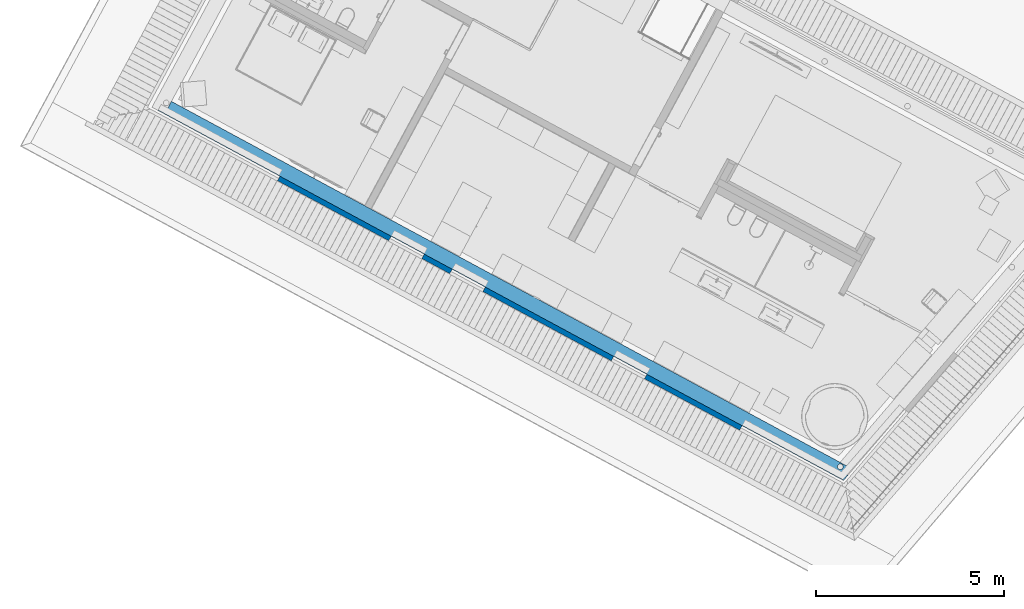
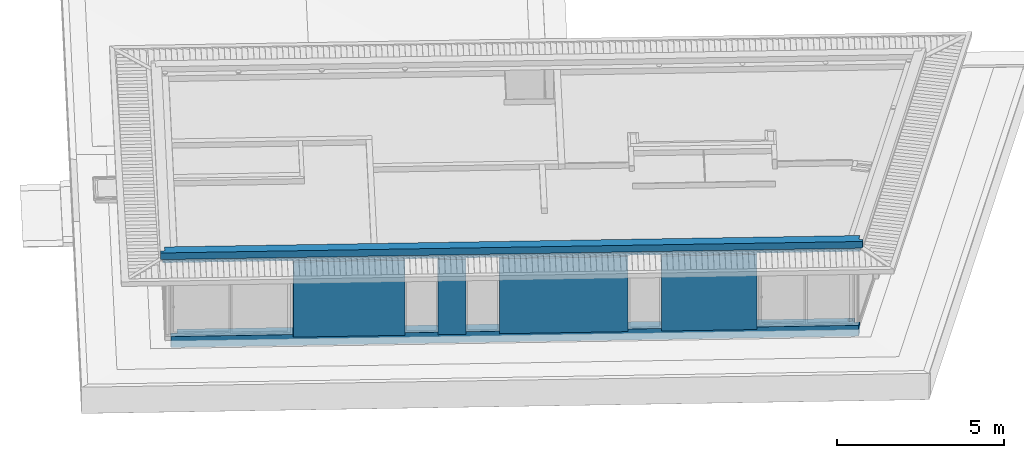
# One storey, part 6 of 48: 2 walls, 5 openings.
"""IFC2X3 building model written with IfcOpenShell, lengths in metres."""

from ifc_helpers import new_model, entity, si_unit, converted_unit, derived_unit, money_unit, direction, frame, origin_with_axes, origin_2d_with_axis, place, context, subcontext, project, spatial, rectangle, extrude, faceted_brep, material, material_list, type_object, element, save


model = new_model("IFC2X3")

# Units and contexts
model_context = context("Model", 3, precision=1e-05, world=origin_with_axes(), true_north=direction((0.0, 1.0)))
body_context = subcontext(model_context, "Body", "Model", "MODEL_VIEW")
ifc_project = project(units=[si_unit("LENGTHUNIT", "METRE"), si_unit("AREAUNIT", "SQUARE_METRE"), si_unit("VOLUMEUNIT", "CUBIC_METRE"), converted_unit("PLANEANGLEUNIT", "DEGREE", entity("IfcPlaneAngleMeasure", 0.0174532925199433), si_unit("PLANEANGLEUNIT", "RADIAN"), dimensions=[0, 0, 0, 0, 0, 0, 0]), money_unit("EUR"), converted_unit("TIMEUNIT", "Year", entity("IfcTimeMeasure", 31556926.0), si_unit("TIMEUNIT", "SECOND"), dimensions=[0, 0, 1, 0, 0, 0, 0]), si_unit("MASSUNIT", "GRAM", prefix="KILO"), si_unit("THERMODYNAMICTEMPERATUREUNIT", "DEGREE_CELSIUS"), si_unit("LUMINOUSINTENSITYUNIT", "LUMEN"), si_unit("ENERGYUNIT", "JOULE", prefix="MEGA"), derived_unit("THERMALCONDUCTANCEUNIT", [(si_unit("POWERUNIT", "WATT"), 1), (si_unit("LENGTHUNIT", "METRE"), -1), (si_unit("THERMODYNAMICTEMPERATUREUNIT", "KELVIN"), -1)]), derived_unit("SPECIFICHEATCAPACITYUNIT", [(si_unit("ENERGYUNIT", "JOULE"), 1), (si_unit("MASSUNIT", "GRAM", prefix="KILO"), -1), (si_unit("THERMODYNAMICTEMPERATUREUNIT", "KELVIN"), -1)]), derived_unit("MASSDENSITYUNIT", [(si_unit("MASSUNIT", "GRAM", prefix="KILO"), 1), (si_unit("VOLUMEUNIT", "CUBIC_METRE"), -1)])], contexts=[model_context])

# Site, building, storey
site_placement = place(None, frame((-3.949935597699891, 1.740105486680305, 0.0), z_axis=(0.0, 0.0, 1.0), x_axis=(0.8799804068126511, -0.475009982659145, 0.0)))
site = spatial("IfcSite", under=ifc_project, at=site_placement, Name="Gelände", CompositionType="ELEMENT")
building_placement = place(site_placement, origin_with_axes())
building = spatial("IfcBuilding", under=site, at=building_placement, Name="Gebäude", CompositionType="ELEMENT")
storey_placement = place(building_placement, frame((0.0, 0.0, 4.55), z_axis=(0.0, 0.0, 1.0), x_axis=(1.0, 0.0, 0.0)))
storey = spatial("IfcBuildingStorey", under=building, at=storey_placement, Name="Staffelgeschoss", CompositionType="ELEMENT", Elevation=4.55)

# Wall, openings
ifc_material_1 = material(Name="_SIWH - Beton, Stahlbeton")
ifc_material_2 = material(Name="_SIWH - Dämmung, weich Mineralwolle")
ifc_material_3 = material(Name="_SIWH - Luftschicht vertikal")
ifc_material_4 = material(Name="_SIWH - MW Vormauerziegel")
ifc_material_list_1 = material_list([ifc_material_1, ifc_material_2, ifc_material_3, ifc_material_4])
wall_type_1 = type_object("IfcWallType", Name="_SIWH - WA | Stb. 20+WD 18+LS 2+Verblender 11,5 | 51,5cm 515", PredefinedType="NOTDEFINED")
wall_1_placement = place(storey_placement, frame((5.397480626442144, 1.424987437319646, -2.47253595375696e-09), z_axis=(0.0, 0.0, 1.0), x_axis=(1.0, 0.0, 0.0)))
wall_1 = element("IfcWall", 1, at=wall_1_placement, inside=storey, type_object=wall_type_1, material=ifc_material_list_1, Name="A-Wand046", context=body_context, shape_type="Brep", body=[
    faceted_brep([(3.675000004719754, 0.2000000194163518, 2.750000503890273), (0.2000000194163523, 0.2000000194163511, 2.750000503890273), (0.1249999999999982, 0.2, 2.749999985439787), (0.0, 0.2, 2.749999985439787), (0.0, 0.2, 2.964000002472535), (20.56232839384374, 0.1999995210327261, 2.964000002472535), (20.5623282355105, 0.1999995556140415, 2.749999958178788), (20.43437954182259, 0.200000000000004, 2.749999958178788), (20.35761153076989, 0.2000000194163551, 2.749999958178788), (17.60735999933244, 0.2000000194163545, 2.749999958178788), (17.60735999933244, 0.2000000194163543, 0.0), (14.73738018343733, 0.2000000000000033, 0.0), (14.73738018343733, 0.2000000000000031, 2.75), (13.73738018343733, 0.2000000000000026, 2.75), (13.73738018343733, 0.2000000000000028, 0.0), (9.867511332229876, 0.2000000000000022, 0.0), (9.867511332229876, 0.2000000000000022, 2.75), (8.867511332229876, 0.2000000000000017, 2.75), (8.867511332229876, 0.2000000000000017, 0.0), (8.02672319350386, 0.2000000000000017, 0.0), (8.02672319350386, 0.2000000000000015, 2.75), (7.026723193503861, 0.2000000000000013, 2.75), (7.026723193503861, 0.2000000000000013, 0.0), (3.675000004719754, 0.2000000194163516, 0.0), (3.675000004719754, 0.0, 2.750000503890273), (0.0, 0.0, 2.750000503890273), (0.04692176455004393, 0.04692176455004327, 2.750000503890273), (0.05532834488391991, 0.03851518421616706, 2.750000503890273), (0.07651473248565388, 0.0277201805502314, 2.750000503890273), (0.1000000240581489, 0.02400047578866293, 2.750000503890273), (0.1234853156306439, 0.0277201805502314, 2.750000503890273), (0.1446717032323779, 0.03851518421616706, 2.750000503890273), (0.1614853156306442, 0.05532879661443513, 2.750000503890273), (0.1722803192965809, 0.07651518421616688, 2.750000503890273), (0.1760000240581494, 0.100000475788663, 2.750000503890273), (0.1722803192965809, 0.1234857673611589, 2.750000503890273), (0.1614853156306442, 0.1446721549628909, 2.750000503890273), (0.1446717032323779, 0.1614857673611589, 2.749999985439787), (0.1249999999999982, 0.1715090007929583, 2.749999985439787), (0.1234853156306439, 0.1722807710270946, 2.749999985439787), (0.1000000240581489, 0.1760004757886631, 2.749999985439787), (0.07651473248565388, 0.1722807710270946, 2.749999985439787), (0.05532834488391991, 0.1614857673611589, 2.749999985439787), (0.03851473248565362, 0.1446721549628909, 2.749999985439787), (0.02771972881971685, 0.1234857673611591, 2.749999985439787), (0.02400002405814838, 0.100000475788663, 2.749999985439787), (0.02771972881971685, 0.0765151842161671, 2.749999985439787), (0.03851473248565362, 0.05532879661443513, 2.749999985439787), (0.0, 0.0, 2.964000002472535), (20.51864681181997, 0.0, 2.964000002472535), (0.03851473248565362, 0.05532879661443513, 2.964000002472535), (0.02771972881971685, 0.0765151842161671, 2.964000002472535), (0.02400002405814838, 0.100000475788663, 2.964000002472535), (0.02771972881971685, 0.1234857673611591, 2.964000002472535), (0.03851473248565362, 0.1446721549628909, 2.964000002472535), (0.05532834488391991, 0.1614857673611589, 2.964000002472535), (0.07651473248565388, 0.1722807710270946, 2.964000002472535), (0.1000000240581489, 0.1760004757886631, 2.964000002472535), (0.1234853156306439, 0.1722807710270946, 2.964000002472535), (0.1446717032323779, 0.1614857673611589, 2.964000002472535), (0.1614853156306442, 0.1446721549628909, 2.964000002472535), (0.1722803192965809, 0.1234857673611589, 2.964000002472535), (0.1760000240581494, 0.100000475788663, 2.964000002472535), (0.1722803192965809, 0.07651518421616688, 2.964000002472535), (0.1614853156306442, 0.05532879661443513, 2.964000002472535), (0.1446717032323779, 0.03851518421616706, 2.964000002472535), (0.1234853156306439, 0.0277201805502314, 2.964000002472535), (0.1000000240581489, 0.02400047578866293, 2.964000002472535), (0.07651473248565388, 0.0277201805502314, 2.964000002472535), (0.05532834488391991, 0.03851518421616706, 2.964000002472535), (20.35617347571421, 0.05532879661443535, 2.964000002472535), (20.34537847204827, 0.07651518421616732, 2.964000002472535), (20.3416587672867, 0.1000004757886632, 2.964000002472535), (20.34537847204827, 0.1234857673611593, 2.964000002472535), (20.35617347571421, 0.1446721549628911, 2.964000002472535), (20.37298708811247, 0.1614857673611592, 2.964000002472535), (20.39417347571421, 0.1722807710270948, 2.964000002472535), (20.4176587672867, 0.1760004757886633, 2.964000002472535), (20.4411440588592, 0.1722807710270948, 2.964000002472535), (20.46233044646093, 0.1614857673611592, 2.964000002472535), (20.4791440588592, 0.1446721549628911, 2.964000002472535), (20.48993906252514, 0.1234857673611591, 2.964000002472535), (20.4936587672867, 0.1000004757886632, 2.964000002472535), (20.48993906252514, 0.0765151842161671, 2.964000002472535), (20.4791440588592, 0.05532879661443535, 2.964000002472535), (20.46233044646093, 0.03851518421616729, 2.964000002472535), (20.4411440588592, 0.02772018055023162, 2.964000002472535), (20.4176587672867, 0.02400047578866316, 2.964000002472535), (20.39417347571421, 0.02772018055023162, 2.964000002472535), (20.37298708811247, 0.03851518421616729, 2.964000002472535), (20.51864535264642, -1.041309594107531e-06, 2.749999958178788), (20.47634744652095, 0.05253218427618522, 2.749999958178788), (20.4791440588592, 0.05532879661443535, 2.749999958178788), (20.48993906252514, 0.0765151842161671, 2.749999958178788), (20.4936587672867, 0.1000004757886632, 2.749999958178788), (20.48993906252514, 0.1234857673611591, 2.749999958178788), (20.4791440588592, 0.1446721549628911, 2.749999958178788), (20.46233044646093, 0.1614857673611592, 2.749999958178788), (20.4411440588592, 0.1722807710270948, 2.749999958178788), (20.42875403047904, 0.1742431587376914, 2.749999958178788), (20.37298708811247, 0.1614857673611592, 2.749999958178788), (20.35617347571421, 0.1446721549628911, 2.749999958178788), (20.34537847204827, 0.1234857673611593, 2.749999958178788), (20.3416587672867, 0.1000004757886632, 2.749999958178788), (20.34537847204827, 0.07651518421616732, 2.749999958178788), (20.35617347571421, 0.05532879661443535, 2.749999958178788), (20.37298708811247, 0.03851518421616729, 2.749999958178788), (20.39417347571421, 0.02772018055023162, 2.749999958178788), (20.4176587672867, 0.02400047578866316, 2.749999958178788), (20.4411440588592, 0.02772018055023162, 2.749999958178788), (20.46233044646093, 0.03851518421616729, 2.749999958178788), (17.60735999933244, 0.0, 2.749999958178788), (20.4176587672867, 0.1760004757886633, 2.749999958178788), (20.39417347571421, 0.1722807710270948, 2.749999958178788), (17.60735999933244, 7.75635511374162e-09, 0.0), (14.73738018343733, 0.0, 0.0), (14.73738018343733, 0.0, 2.75), (13.73738018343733, 0.0, 2.75), (13.73738018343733, 0.0, 0.0), (9.867511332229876, 0.0, 0.0), (9.867511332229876, 0.0, 2.75), (8.867511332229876, 0.0, 2.75), (8.867511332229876, 0.0, 0.0), (8.02672319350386, 0.0, 0.0), (8.02672319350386, 0.0, 2.75), (7.026723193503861, 0.0, 2.75), (7.026723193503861, 0.0, 0.0), (3.675000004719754, 7.75635244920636e-09, 0.0)], [[[0, 1, 2, 3, 4, 5, 6, 7, 8, 9, 10, 11, 12, 13, 14, 15, 16, 17, 18, 19, 20, 21, 22, 23]], [[1, 0, 24, 25, 26, 27, 28, 29, 30, 31, 32, 33, 34, 35, 36, 37, 38, 2]], [[26, 25, 3, 2, 38, 39, 40, 41, 42, 43, 44, 45, 46, 47]], [[3, 25, 48, 4]], [[5, 4, 48, 49], [50, 51, 52, 53, 54, 55, 56, 57, 58, 59, 60, 61, 62, 63, 64, 65, 66, 67, 68, 69], [70, 71, 72, 73, 74, 75, 76, 77, 78, 79, 80, 81, 82, 83, 84, 85, 86, 87, 88, 89]], [[90, 6, 5, 49]], [[90, 91, 92, 93, 94, 95, 96, 97, 98, 99, 7, 6]], [[100, 101, 102, 103, 104, 105, 106, 107, 108, 109, 110, 91, 90, 111, 9, 8, 7, 99, 112, 113]], [[10, 9, 111, 114]], [[10, 114, 115, 11]], [[12, 11, 115, 116]], [[13, 12, 116, 117]], [[14, 13, 117, 118]], [[14, 118, 119, 15]], [[15, 119, 120, 16]], [[16, 120, 121, 17]], [[17, 121, 122, 18]], [[122, 123, 19, 18]], [[124, 20, 19, 123]], [[125, 21, 20, 124]], [[126, 22, 21, 125]], [[127, 23, 22, 126]], [[0, 23, 127, 24]], [[24, 127, 126, 125, 124, 123, 122, 121, 120, 119, 118, 117, 116, 115, 114, 111, 90, 49, 48, 25]], [[27, 26, 47, 50, 69]], [[28, 27, 69, 68]], [[29, 28, 68, 67]], [[30, 29, 67, 66]], [[31, 30, 66, 65]], [[32, 31, 65, 64]], [[33, 32, 64, 63]], [[34, 33, 63, 62]], [[35, 34, 62, 61]], [[36, 35, 61, 60]], [[36, 60, 59, 37]], [[38, 37, 59, 58, 39]], [[40, 39, 58, 57]], [[41, 40, 57, 56]], [[42, 41, 56, 55]], [[43, 42, 55, 54]], [[44, 43, 54, 53]], [[45, 44, 53, 52]], [[46, 45, 52, 51]], [[47, 46, 51, 50]], [[105, 104, 71, 70]], [[104, 103, 72, 71]], [[103, 102, 73, 72]], [[102, 101, 74, 73]], [[101, 100, 75, 74]], [[100, 113, 76, 75]], [[113, 112, 77, 76]], [[99, 98, 78, 77, 112]], [[98, 97, 79, 78]], [[97, 96, 80, 79]], [[96, 95, 81, 80]], [[95, 94, 82, 81]], [[94, 93, 83, 82]], [[93, 92, 84, 83]], [[91, 110, 85, 84, 92]], [[110, 109, 86, 85]], [[109, 108, 87, 86]], [[108, 107, 88, 87]], [[107, 106, 89, 88]], [[106, 105, 70, 89]]]),
    faceted_brep([(3.675000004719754, 0.0, 2.750000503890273), (-9.124601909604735e-07, -9.124601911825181e-07, 2.750000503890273), (-0.1799999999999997, 0.0, 2.749999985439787), (-0.1799999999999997, 0.0, 3.164000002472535), (20.70288770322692, 0.0, 3.164000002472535), (20.70288770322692, 0.0, 2.749999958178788), (20.51864451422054, 0.0, 2.749999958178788), (17.60735999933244, 0.0, 2.749999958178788), (17.60735999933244, 7.75635511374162e-09, 0.0), (14.73738018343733, 0.0, 0.0), (14.73738018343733, 0.0, 2.75), (13.73738018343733, 0.0, 2.75), (13.73738018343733, 0.0, 0.0), (9.867511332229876, 0.0, 0.0), (9.867511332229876, 0.0, 2.75), (8.867511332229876, 0.0, 2.75), (8.867511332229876, 0.0, 0.0), (8.02672319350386, 0.0, 0.0), (8.02672319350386, 0.0, 2.75), (7.026723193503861, 0.0, 2.75), (7.026723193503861, 0.0, 0.0), (3.675000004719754, 7.75635244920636e-09, 0.0), (3.675000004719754, -0.1799999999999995, 2.750000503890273), (-0.1799999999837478, -0.179999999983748, 2.750000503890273), (-0.1799999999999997, -0.1799999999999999, 3.164000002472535), (20.66357418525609, -0.1799999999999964, 3.164000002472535), (20.66357418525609, -0.1799999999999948, 2.749999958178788), (17.60735999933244, -0.1799999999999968, 2.749999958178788), (17.60735999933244, -0.1800000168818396, 0.0), (14.73738018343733, -0.1799999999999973, 0.0), (14.73738018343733, -0.1799999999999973, 2.75), (13.73738018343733, -0.1799999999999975, 2.75), (13.73738018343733, -0.1799999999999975, 0.0), (9.867511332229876, -0.1799999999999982, 0.0), (9.867511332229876, -0.1799999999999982, 2.75), (8.867511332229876, -0.1799999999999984, 2.75), (8.867511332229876, -0.1799999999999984, 0.0), (8.02672319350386, -0.1799999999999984, 0.0), (8.02672319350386, -0.1799999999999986, 2.75), (7.026723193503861, -0.1799999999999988, 2.75), (7.026723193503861, -0.1799999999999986, 0.0), (3.675000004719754, -0.1800000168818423, 0.0)], [[[0, 1, 2, 3, 4, 5, 6, 7, 8, 9, 10, 11, 12, 13, 14, 15, 16, 17, 18, 19, 20, 21]], [[1, 0, 22, 23]], [[1, 23, 2]], [[2, 23, 24, 3]], [[3, 24, 25, 4]], [[26, 5, 4, 25]], [[26, 6, 5]], [[6, 26, 27, 7]], [[8, 7, 27, 28]], [[8, 28, 29, 9]], [[10, 9, 29, 30]], [[11, 10, 30, 31]], [[12, 11, 31, 32]], [[12, 32, 33, 13]], [[13, 33, 34, 14]], [[14, 34, 35, 15]], [[15, 35, 36, 16]], [[36, 37, 17, 16]], [[38, 18, 17, 37]], [[39, 19, 18, 38]], [[40, 20, 19, 39]], [[41, 21, 20, 40]], [[0, 21, 41, 22]], [[22, 41, 40, 39, 38, 37, 36, 35, 34, 33, 32, 31, 30, 29, 28, 27, 26, 25, 24, 23]]]),
    faceted_brep([(3.675000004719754, -0.1799999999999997, 2.750000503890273), (-0.1800022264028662, -0.1800022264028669, 2.750000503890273), (-0.2000000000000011, -0.1799999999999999, 2.749999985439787), (-0.2000000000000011, -0.1799999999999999, 3.164000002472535), (20.68404565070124, -0.1799999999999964, 3.164000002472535), (20.68404565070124, -0.1799999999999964, 2.749999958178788), (20.66357418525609, -0.1799999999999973, 2.749999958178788), (17.60735999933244, -0.1799999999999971, 2.749999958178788), (17.60735999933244, -0.1800000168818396, 0.0), (14.73738018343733, -0.1799999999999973, 0.0), (14.73738018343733, -0.1799999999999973, 2.75), (13.73738018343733, -0.1799999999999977, 2.75), (13.73738018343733, -0.1799999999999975, 0.0), (9.867511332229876, -0.1799999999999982, 0.0), (9.867511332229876, -0.1799999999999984, 2.75), (8.867511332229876, -0.1799999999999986, 2.75), (8.867511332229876, -0.1799999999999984, 0.0), (8.02672319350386, -0.1799999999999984, 0.0), (8.02672319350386, -0.1799999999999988, 2.75), (7.026723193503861, -0.179999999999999, 2.75), (7.026723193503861, -0.1799999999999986, 0.0), (3.675000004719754, -0.1800000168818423, 0.0), (3.675000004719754, -0.1999999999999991, 2.750000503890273), (-0.1999999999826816, -0.1999999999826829, 2.750000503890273), (-0.2000000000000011, -0.1999999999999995, 3.164000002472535), (20.67967748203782, -0.199999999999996, 3.164000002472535), (20.67967748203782, -0.1999999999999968, 2.749999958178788), (20.67162583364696, -0.1899999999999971, 2.749999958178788), (17.60735999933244, -0.1999999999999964, 2.749999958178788), (17.60735999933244, -0.1899999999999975, 2.749999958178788), (17.60735999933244, -0.1899999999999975, 0.0), (17.60735999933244, -0.200000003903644, 0.0), (14.73738018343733, -0.1999999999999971, 0.0), (14.73738018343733, -0.1999999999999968, 2.75), (13.73738018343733, -0.1999999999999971, 2.75), (13.73738018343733, -0.1999999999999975, 0.0), (9.867511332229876, -0.1999999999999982, 0.0), (9.867511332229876, -0.1999999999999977, 2.75), (8.867511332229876, -0.199999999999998, 2.75), (8.867511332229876, -0.1999999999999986, 0.0), (8.02672319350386, -0.1999999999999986, 0.0), (8.02672319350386, -0.1999999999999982, 2.75), (7.026723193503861, -0.1999999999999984, 2.75), (7.026723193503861, -0.1999999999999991, 0.0), (3.675000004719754, -0.2000000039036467, 0.0)], [[[0, 1, 2, 3, 4, 5, 6, 7, 8, 9, 10, 11, 12, 13, 14, 15, 16, 17, 18, 19, 20, 21]], [[1, 0, 22, 23]], [[1, 23, 2]], [[2, 23, 24, 3]], [[3, 24, 25, 4]], [[26, 5, 4, 25]], [[27, 6, 5, 26, 28, 29]], [[6, 27, 29, 7]], [[8, 7, 29, 30]], [[30, 31, 32, 9, 8]], [[10, 9, 32, 33]], [[11, 10, 33, 34]], [[12, 11, 34, 35]], [[12, 35, 36, 13]], [[13, 36, 37, 14]], [[14, 37, 38, 15]], [[15, 38, 39, 16]], [[39, 40, 17, 16]], [[41, 18, 17, 40]], [[42, 19, 18, 41]], [[43, 20, 19, 42]], [[44, 21, 20, 43]], [[0, 21, 44, 22]], [[22, 44, 43, 42, 41, 40, 39, 38, 37, 36, 35, 34, 33, 32, 31, 28, 26, 25, 24, 23]], [[31, 30, 29, 28]]]),
    faceted_brep([(3.675000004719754, -0.3149999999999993, 0.0), (7.026723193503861, -0.3149999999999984, 0.0), (7.026723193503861, -0.3149999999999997, 2.75), (3.675000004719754, -0.3149999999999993, 2.750000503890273), (3.675000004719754, -0.2000000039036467, 0.0), (7.026723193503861, -0.1999999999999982, 0.0), (7.026723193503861, -0.1999999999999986, 2.75), (7.026723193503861, -0.2449871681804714, 2.75), (3.675000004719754, -0.2449870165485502, 2.750000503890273), (3.675000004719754, -0.1999999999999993, 2.750000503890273), (-0.1999999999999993, -0.1999999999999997, 2.750000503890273), (-0.2449999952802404, -0.1999999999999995, 2.750000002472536), (-0.2449999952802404, -0.1999999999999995, 2.920000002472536), (-0.3149999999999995, -0.1999999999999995, 2.920000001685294), (-0.3149999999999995, -0.1999999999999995, 3.164000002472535), (20.79738840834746, -0.199999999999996, 3.164000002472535), (20.79738840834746, -0.1999999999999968, 2.920000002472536), (20.72575801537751, -0.1999999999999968, 2.920000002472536), (20.72575801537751, -0.1999999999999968, 2.750000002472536), (17.60735999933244, -0.1999999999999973, 2.749999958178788), (17.60735999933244, -0.200000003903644, 0.0), (14.73738018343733, -0.1999999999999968, 0.0), (14.73738018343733, -0.1999999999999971, 2.75), (13.73738018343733, -0.1999999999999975, 2.75), (13.73738018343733, -0.1999999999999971, 0.0), (9.867511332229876, -0.1999999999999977, 0.0), (9.867511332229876, -0.199999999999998, 2.75), (8.867511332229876, -0.1999999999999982, 2.75), (8.867511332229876, -0.199999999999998, 0.0), (8.02672319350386, -0.199999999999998, 0.0), (8.02672319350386, -0.1999999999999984, 2.75), (8.02672319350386, -0.2449872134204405, 2.75), (-0.244986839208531, -0.2449868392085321, 2.919999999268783), (-0.244986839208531, -0.2449868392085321, 2.750000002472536), (8.867511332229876, -0.2449872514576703, 2.75), (9.17857262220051, -0.2449872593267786, 2.749999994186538), (9.867511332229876, -0.2449872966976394, 2.75), (12.65175586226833, -0.24498742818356, 2.750000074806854), (13.73738018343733, -0.2449874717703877, 2.75), (14.73738018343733, -0.244987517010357, 2.75), (17.60735999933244, -0.2449876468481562, 2.749999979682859), (20.71593230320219, -0.2449877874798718, 2.750000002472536), (20.71593230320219, -0.2449877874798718, 2.920000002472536), (20.7159000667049, -0.2449877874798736, 2.919999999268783), (-0.269035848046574, -0.3149999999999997, 2.919999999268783), (-0.3149999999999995, -0.3149999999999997, 2.919999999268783), (20.77227143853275, -0.3149999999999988, 2.919999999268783), (20.70533045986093, -0.3149999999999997, 2.919999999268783), (-0.3149999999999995, -0.3149999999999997, 3.164000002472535), (20.77227143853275, -0.3149999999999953, 3.164000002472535), (17.60735999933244, -0.3149999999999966, 2.749999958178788), (17.60735999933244, -0.3149999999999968, 0.0), (14.73738018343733, -0.3149999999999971, 0.0), (14.73738018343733, -0.3149999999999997, 2.75), (13.73738018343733, -0.3149999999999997, 2.75), (13.73738018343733, -0.3149999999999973, 0.0), (9.867511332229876, -0.3149999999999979, 0.0), (9.867511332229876, -0.3149999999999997, 2.75), (8.867511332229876, -0.3149999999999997, 2.75), (8.867511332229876, -0.3149999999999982, 0.0), (8.02672319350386, -0.3149999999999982, 0.0), (8.02672319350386, -0.3149999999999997, 2.75)], [[[0, 1, 2, 3]], [[1, 0, 4, 5]], [[2, 1, 5, 6, 7]], [[3, 2, 7, 8]], [[0, 3, 8, 9, 4]], [[6, 5, 4, 9, 10, 11, 12, 13, 14, 15, 16, 17, 18, 19, 20, 21, 22, 23, 24, 25, 26, 27, 28, 29, 30]], [[6, 30, 31, 7]], [[32, 33, 8, 7, 31, 34, 35, 36, 37, 38, 39, 40, 41, 42, 43]], [[8, 33, 10, 9]], [[33, 11, 10]], [[11, 33, 32, 12]], [[44, 45, 13, 12, 32, 43, 46, 47]], [[45, 48, 14, 13]], [[14, 48, 49, 15]], [[49, 46, 16, 15]], [[43, 42, 17, 16, 46]], [[42, 41, 18, 17]], [[41, 40, 19, 18]], [[50, 51, 20, 19, 40]], [[52, 21, 20, 51]], [[52, 53, 39, 22, 21]], [[39, 38, 23, 22]], [[54, 55, 24, 23, 38]], [[55, 56, 25, 24]], [[56, 57, 36, 26, 25]], [[27, 26, 36, 35, 34]], [[58, 59, 28, 27, 34]], [[59, 60, 29, 28]], [[60, 61, 31, 30, 29]], [[31, 61, 58, 34]], [[57, 54, 38, 37, 36]], [[39, 53, 50, 40]], [[48, 45, 44, 47, 46, 49]], [[53, 52, 51, 50]], [[56, 55, 54, 57]], [[61, 60, 59, 58]]]),
])
opening_1_placement = place(wall_1_placement, frame((19.09888572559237, 0.0, 2.47253595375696e-09), z_axis=(0.0, 0.0, 1.0), x_axis=(1.0, 0.0, 0.0)))
element("IfcOpeningElement", 2, at=opening_1_placement, cuts=wall_1, Name="Eckfenster-008", context=body_context, shape_type="Brep", body=[
    faceted_brep([(1.673385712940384, -0.3149999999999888, 2.749999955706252), (1.673385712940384, -0.3160000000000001, 2.749999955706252), (1.673385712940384, -0.3160000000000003, -2.47253595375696e-09), (1.673385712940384, -0.3149999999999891, -2.47253595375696e-09), (1.572740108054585, -0.1899999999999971, 2.749999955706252), (-1.491525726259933, -0.1899999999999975, 2.749999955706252), (-1.491525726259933, -0.3160000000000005, 2.749999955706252), (-1.491525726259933, -0.3160000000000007, -2.47253595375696e-09), (-1.491525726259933, -0.1899999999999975, -2.47253595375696e-09), (1.572740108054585, -0.1899999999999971, -2.47253595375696e-09), (1.257920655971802, 0.2010000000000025, -2.47253595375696e-09), (1.257920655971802, 0.2010000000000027, 2.749999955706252), (-1.491525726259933, 0.2010000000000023, 2.749999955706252), (-1.491525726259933, 0.2010000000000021, -2.47253595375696e-09)], [[[0, 1, 2, 3]], [[4, 5, 6, 1, 0]], [[6, 7, 2, 1]], [[8, 9, 3, 2, 7]], [[0, 3, 9, 10, 11, 4]], [[5, 4, 11, 12]], [[5, 8, 7, 6]], [[9, 8, 13, 10]], [[10, 13, 12, 11]], [[8, 5, 12, 13]]]),
])
opening_2_placement = place(wall_1_placement, frame((1.715000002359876, 0.0, -5.416190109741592e-07), z_axis=(0.0, 0.0, 1.0), x_axis=(1.0, 0.0, 0.0)))
element("IfcOpeningElement", 3, at=opening_2_placement, cuts=wall_1, Name="Fenster-003", context=body_context, shape_type="Brep", body=[
    faceted_brep([(1.960000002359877, 0.2010000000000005, 2.750001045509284), (1.960000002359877, 0.2010000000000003, 5.416190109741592e-07), (-1.514000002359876, 0.2009999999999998, 5.416190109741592e-07), (-1.514000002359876, 0.2010000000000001, 2.750001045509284), (1.960000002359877, -0.3160000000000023, 2.750001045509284), (1.960000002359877, -0.3160000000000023, 5.416190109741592e-07), (-2.030000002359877, -0.3160000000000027, 5.416190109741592e-07), (-2.030000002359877, -0.3149999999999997, 5.416190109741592e-07), (-2.030000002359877, -0.3149999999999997, 2.750001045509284), (-2.030000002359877, -0.3160000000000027, 2.750001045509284)], [[[0, 1, 2, 3]], [[4, 5, 1, 0]], [[5, 6, 7, 2, 1]], [[2, 7, 8, 3]], [[9, 4, 0, 3, 8]], [[6, 5, 4, 9]], [[6, 9, 8, 7]]]),
])
opening_3_placement = place(wall_1_placement, frame((9.367511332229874, 0.0, -4.08186577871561e-08), z_axis=(0.0, 0.0, 1.0), x_axis=(1.0, 0.0, 0.0)))
element("IfcOpeningElement", 4, at=opening_3_placement, cuts=wall_1, Name="Fenster-003", context=body_context, shape_type="SweptSolid", body=[
    extrude(rectangle(XDim=1.0, YDim=2.75, at=origin_2d_with_axis()), frame((0.0, 0.5150000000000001, 1.375000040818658), z_axis=(0.0, 1.0, 0.0), x_axis=(-1.0, 0.0, 0.0)), (0.0, 0.0, -1.0), 1.545),
])
opening_4_placement = place(wall_1_placement, frame((7.526723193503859, 0.0, -4.08186577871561e-08), z_axis=(0.0, 0.0, 1.0), x_axis=(1.0, 0.0, 0.0)))
element("IfcOpeningElement", 5, at=opening_4_placement, cuts=wall_1, Name="Fenster-003", context=body_context, shape_type="SweptSolid", body=[
    extrude(rectangle(XDim=1.0, YDim=2.75, at=origin_2d_with_axis()), frame((0.0, 0.5150000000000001, 1.375000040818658), z_axis=(0.0, 1.0, 0.0), x_axis=(-1.0, 0.0, 0.0)), (0.0, 0.0, -1.0), 1.545),
])
opening_5_placement = place(wall_1_placement, frame((14.23738018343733, 0.0, -4.08186577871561e-08), z_axis=(0.0, 0.0, 1.0), x_axis=(1.0, 0.0, 0.0)))
element("IfcOpeningElement", 6, at=opening_5_placement, cuts=wall_1, Name="Fenster-003", context=body_context, shape_type="SweptSolid", body=[
    extrude(rectangle(XDim=1.0, YDim=2.75, at=origin_2d_with_axis()), frame((0.0, 0.5150000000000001, 1.375000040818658), z_axis=(0.0, 1.0, 0.0), x_axis=(-1.0, 0.0, 0.0)), (0.0, 0.0, -1.0), 1.545),
])

# Wall
ifc_material_list_2 = material_list([ifc_material_1, ifc_material_2])
wall_type_2 = type_object("IfcWallType", Name="_SIWH - WA | Stb. 20+WD 18 | 38cm 380", PredefinedType="NOTDEFINED")
wall_2_placement = place(storey_placement, frame((5.397480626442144, 1.424987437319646, -0.3999999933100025), z_axis=(0.0, 0.0, 1.0), x_axis=(1.0, 0.0, 0.0)))
element("IfcWall", 7, at=wall_2_placement, inside=storey, type_object=wall_type_2, material=ifc_material_list_2, Name="A-Wand048", context=body_context, shape_type="Brep", body=[
    faceted_brep([(0.2000000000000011, 0.0, 0.3999999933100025), (20.5186445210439, 0.0, 0.3999999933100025), (20.56232620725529, 0.2000000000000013, 0.3999999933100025), (0.2000000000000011, 0.2, 0.3999999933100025), (20.4791440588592, 0.1446721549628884, 0.3999999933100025), (20.48993906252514, 0.1234857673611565, 0.3999999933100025), (20.4936587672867, 0.1000004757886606, 0.3999999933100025), (20.48993906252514, 0.07651518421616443, 0.3999999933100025), (20.4791440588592, 0.05532879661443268, 0.3999999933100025), (20.46233044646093, 0.03851518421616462, 0.3999999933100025), (20.4411440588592, 0.02772018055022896, 0.3999999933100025), (20.4176587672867, 0.02400047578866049, 0.3999999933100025), (20.39417347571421, 0.02772018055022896, 0.3999999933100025), (20.37298708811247, 0.03851518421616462, 0.3999999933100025), (20.35617347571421, 0.05532879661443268, 0.3999999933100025), (20.34537847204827, 0.07651518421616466, 0.3999999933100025), (20.3416587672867, 0.1000004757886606, 0.3999999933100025), (20.34537847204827, 0.1234857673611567, 0.3999999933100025), (20.35617347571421, 0.1446721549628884, 0.3999999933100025), (20.37298708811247, 0.1614857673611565, 0.3999999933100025), (20.39417347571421, 0.1722807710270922, 0.3999999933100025), (20.4176587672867, 0.1760004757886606, 0.3999999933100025), (20.4411440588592, 0.1722807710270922, 0.3999999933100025), (20.46233044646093, 0.1614857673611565, 0.3999999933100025), (0.2000000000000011, 0.0, 0.210000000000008), (20.51864452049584, 0.0, 0.210000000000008), (20.5623262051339, 0.2000000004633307, 0.210000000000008), (0.2000000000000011, 0.2, 0.210000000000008), (20.4791440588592, 0.1446721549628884, 0.249999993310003), (20.48993906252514, 0.1234857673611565, 0.249999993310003), (20.4936587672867, 0.1000004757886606, 0.249999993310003), (20.48993906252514, 0.07651518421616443, 0.249999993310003), (20.4791440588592, 0.05532879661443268, 0.249999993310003), (20.46233044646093, 0.03851518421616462, 0.249999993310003), (20.4411440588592, 0.02772018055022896, 0.249999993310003), (20.4176587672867, 0.02400047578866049, 0.249999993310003), (20.39417347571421, 0.02772018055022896, 0.249999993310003), (20.37298708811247, 0.03851518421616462, 0.249999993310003), (20.35617347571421, 0.05532879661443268, 0.249999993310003), (20.34537847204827, 0.07651518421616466, 0.249999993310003), (20.3416587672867, 0.1000004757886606, 0.249999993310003), (20.34537847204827, 0.1234857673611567, 0.249999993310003), (20.35617347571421, 0.1446721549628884, 0.249999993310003), (20.37298708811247, 0.1614857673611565, 0.249999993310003), (20.39417347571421, 0.1722807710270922, 0.249999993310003), (20.4176587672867, 0.1760004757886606, 0.249999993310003), (20.4411440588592, 0.1722807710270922, 0.249999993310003), (20.46233044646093, 0.1614857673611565, 0.249999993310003)], [[[0, 1, 2, 3], [4, 5, 6, 7, 8, 9, 10, 11, 12, 13, 14, 15, 16, 17, 18, 19, 20, 21, 22, 23]], [[0, 24, 25, 1]], [[1, 25, 26, 2]], [[2, 26, 27, 3]], [[3, 27, 24, 0]], [[5, 4, 28, 29]], [[6, 5, 29, 30]], [[7, 6, 30, 31]], [[8, 7, 31, 32]], [[9, 8, 32, 33]], [[10, 9, 33, 34]], [[11, 10, 34, 35]], [[12, 11, 35, 36]], [[13, 12, 36, 37]], [[14, 13, 37, 38]], [[15, 14, 38, 39]], [[16, 15, 39, 40]], [[17, 16, 40, 41]], [[18, 17, 41, 42]], [[19, 18, 42, 43]], [[20, 19, 43, 44]], [[21, 20, 44, 45]], [[22, 21, 45, 46]], [[23, 22, 46, 47]], [[4, 23, 47, 28]], [[24, 27, 26, 25]], [[40, 39, 38, 37, 36, 35, 34, 33, 32, 31, 30, 29, 28, 47, 46, 45, 44, 43, 42, 41]]]),
    faceted_brep([(20.70288770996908, 0.0, 0.0), (20.66357419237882, -0.1799999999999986, 0.0), (0.0, -0.1799999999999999, 0.0), (0.0, 0.0, 0.0), (20.70288770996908, 0.0, 0.3999999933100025), (20.66357419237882, -0.1799999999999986, 0.3999999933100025), (0.0, -0.1799999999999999, 0.3999999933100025), (0.0, 0.0, 0.3999999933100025)], [[[0, 1, 2, 3]], [[1, 0, 4, 5]], [[1, 5, 6, 2]], [[7, 3, 2, 6]], [[4, 0, 3, 7]], [[5, 4, 7, 6]]]),
])

save(model, "model.ifc")
